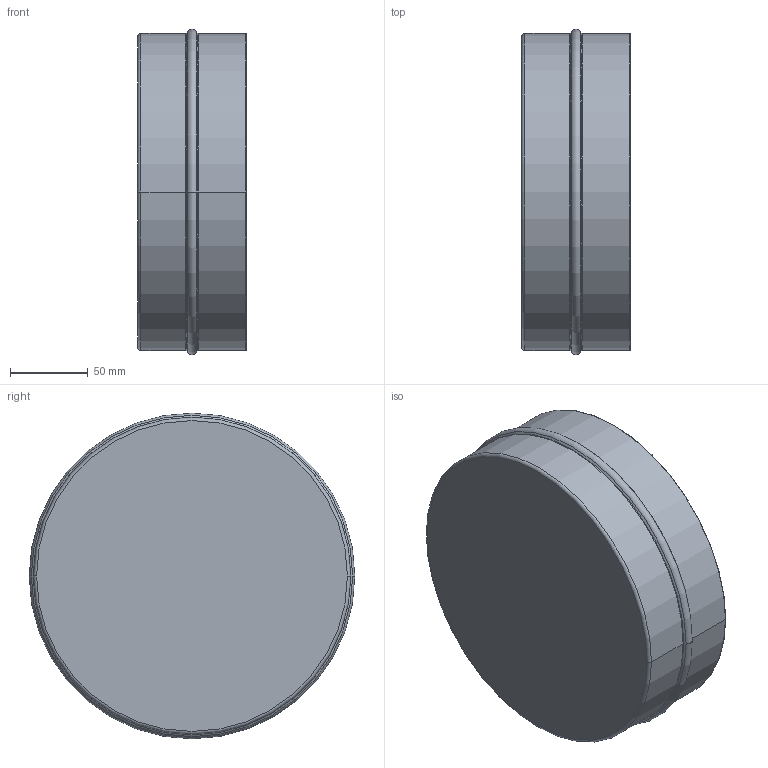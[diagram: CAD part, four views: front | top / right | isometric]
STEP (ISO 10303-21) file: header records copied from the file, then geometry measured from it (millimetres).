
FILE_DESCRIPTION((''),'2;1');
FILE_NAME('2012A00600','2017-05-10T',('Administrator'),(''),'PRO/ENGINEER BY PARAMETRIC TECHNOLOGY CORPORATION, 2009360','PRO/ENGINEER BY PARAMETRIC TECHNOLOGY CORPORATION, 2009360','');
FILE_SCHEMA(('AUTOMOTIVE_DESIGN_CC2 { 1 2 10303 214 -1 1 5 2 }'));
Length unit declared in the file: millimetre
Products named in the file (1): 2012A00600
Bounding box: 70 x 209.98 x 209.98 mm (x, y, z)
Volume: 825644.5 mm3; surface area: 140691.2 mm2
Topology: 1 solids, 1 shells, 25 faces, 48 edges, 26 vertices
Faces by surface type: torus 12, cylinder 6, cone 4, plane 3
Entity records: 811 total; most frequent: DIRECTION 136, CARTESIAN_POINT 99, ORIENTED_EDGE 96, AXIS2_PLACEMENT_3D 63, PRESENTATION_STYLE_ASSIGNMENT 49, STYLED_ITEM 49, CURVE_STYLE 48, EDGE_CURVE 48
